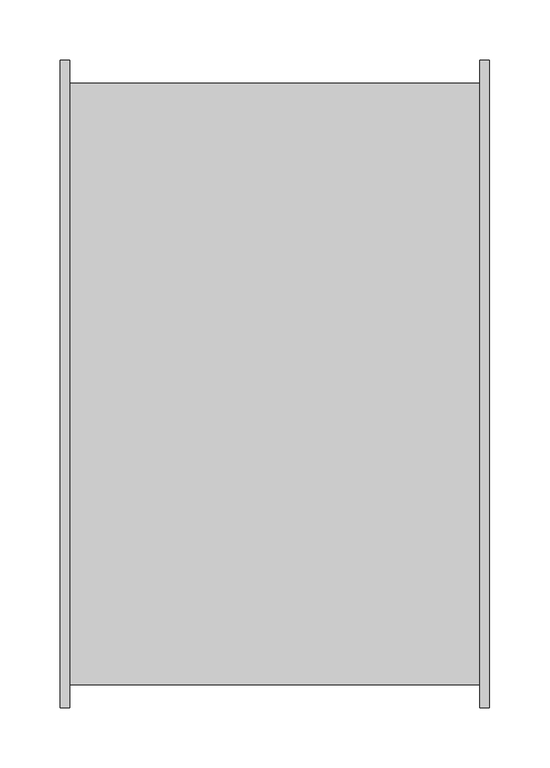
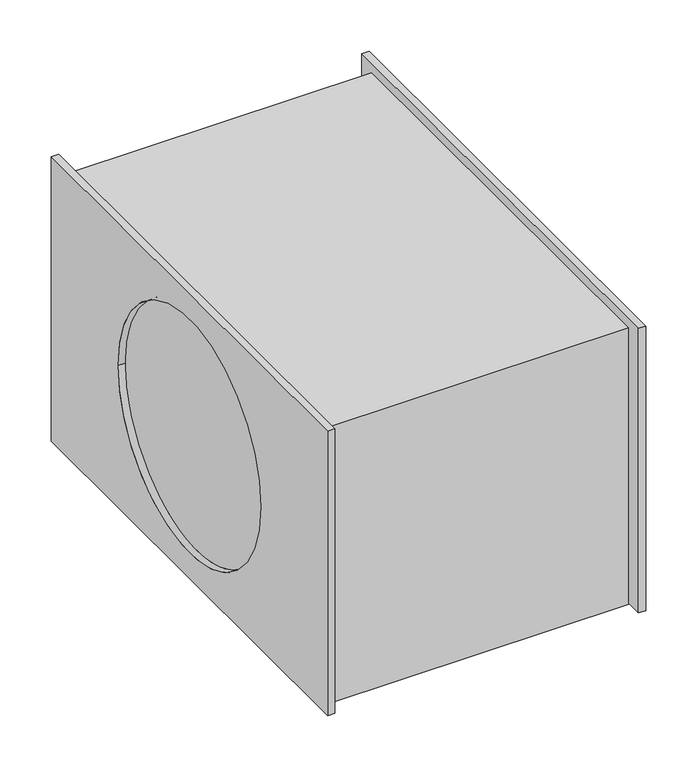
"""IFC4 building model written with IfcOpenShell, lengths in millimetres: unitary equipment geometry, VE-Wentylator-ParaForma-Harmann-JETTEC_REC-Nawiewny : 050/30/2400S."""

from ifc_helpers import new_model, si_unit, frame, origin, place, context, project, spatial, polyline, circle_curve, source, transform, mapped, element, save
from ifc_brep_helpers import plane_surface, revolved_surface, advanced_brep


def unitary_equipment_9b108a9d(model_context):
    return source(origin(), model_context, "Body", "AdvancedBrep", [
        advanced_brep(
        [(170.5, -269.0, -169.0), (170.5, -269.0, 169.0), (170.5, 269.0, 169.0), (170.5, 269.0, -169.0), (170.5, 250.0, -169.0), (170.5, 250.0, 158.0), (170.5, -250.0, 158.0), (170.5, -250.0, -169.0), (178.5, -269.0, -169.0), (178.5, 269.0, -169.0), (178.5, 269.0, 169.0), (178.5, -269.0, 169.0), (178.5, -138.75, 0.0), (178.5, 138.75, 0.0), (170.5, 138.75, 0.0), (170.5, -138.75, 0.0), (-170.5, 250.0, -170.0), (-170.5, -250.0, -170.0), (-170.5, -250.0, -169.0), (-170.5, 250.0, -169.0), (-170.5, -138.75, 0.0), (-170.5, 138.75, 0.0), (170.5, -250.0, -170.0), (170.5, 250.0, -170.0), (-170.5, -250.0, 158.0), (-170.5, 250.0, 158.0), (-178.5, -269.0, -169.0), (-178.5, -269.0, 169.0), (-178.5, 269.0, 169.0), (-178.5, 269.0, -169.0), (-178.5, 138.75, 0.0), (-178.5, -138.75, 0.0), (-170.5, 269.0, -169.0), (-170.5, 269.0, 169.0), (-170.5, -269.0, 169.0), (-170.5, -269.0, -169.0)],
        [
            (0, 1),
            (1, 2),
            (2, 3),
            (3, 4),
            (4, 5),
            (5, 6),
            (6, 7),
            (7, 0),
            (8, 9),
            (9, 10),
            (10, 11),
            (11, 8),
            (12, 13, circle_curve(frame((178.5, 0.0, 0.0), z_axis=(-1.0, 0.0, 0.0), x_axis=(0.0, 1.0, 0.0)), 138.75)),
            (13, 12, circle_curve(frame((178.5, 0.0, 0.0), z_axis=(-1.0, 0.0, 0.0), x_axis=(0.0, 1.0, 0.0)), 138.75)),
            (0, 8),
            (11, 1),
            (10, 2),
            (9, 3),
            (7, 4),
            (14, 13),
            (12, 15),
            (15, 14, circle_curve(frame((170.5, 0.0, 0.0), z_axis=(-1.0, 0.0, 0.0), x_axis=(0.0, 1.0, 0.0)), 138.75)),
            (14, 15, circle_curve(frame((170.5, 0.0, 0.0), z_axis=(-1.0, 0.0, 0.0), x_axis=(0.0, 1.0, 0.0)), 138.75)),
            (16, 17),
            (17, 18),
            (18, 19),
            (19, 16),
            (20, 21, circle_curve(frame((-170.5, 0.0, 0.0), z_axis=(-1.0, 0.0, 0.0), x_axis=(0.0, 1.0, 0.0)), 138.75)),
            (21, 20, circle_curve(frame((-170.5, 0.0, 0.0), z_axis=(-1.0, 0.0, 0.0), x_axis=(0.0, 1.0, 0.0)), 138.75)),
            (22, 23),
            (23, 4),
            (7, 22),
            (17, 22),
            (6, 24),
            (24, 18),
            (5, 25),
            (25, 24),
            (23, 16),
            (19, 25),
            (26, 27),
            (27, 28),
            (28, 29),
            (29, 26),
            (30, 31, circle_curve(frame((-178.5, 0.0, 0.0), z_axis=(1.0, 0.0, 0.0), x_axis=(0.0, 1.0, 0.0)), 138.75)),
            (31, 30, circle_curve(frame((-178.5, 0.0, 0.0), z_axis=(1.0, 0.0, 0.0), x_axis=(0.0, 1.0, 0.0)), 138.75)),
            (32, 33),
            (33, 34),
            (34, 35),
            (35, 18),
            (19, 32),
            (26, 35),
            (34, 27),
            (33, 28),
            (32, 29),
            (30, 21),
            (20, 31),
        ],
        [
            plane_surface(frame((170.5, 0.0, 0.0), z_axis=(-1.0, 0.0, 0.0), x_axis=(0.0, 0.0, 1.0))),
            plane_surface(frame((178.5, 0.0, 0.0), z_axis=(1.0, 0.0, 0.0), x_axis=(0.0, 0.0, 1.0))),
            plane_surface(frame((170.5, -269.0, -169.0), z_axis=(0.0, -1.0, 0.0), x_axis=(1.0, 0.0, 0.0))),
            plane_surface(frame((170.5, -269.0, 169.0), z_axis=(0.0, 0.0, 1.0), x_axis=(1.0, 0.0, 0.0))),
            plane_surface(frame((170.5, 269.0, 169.0), z_axis=(0.0, 1.0, 0.0), x_axis=(1.0, 0.0, 0.0))),
            plane_surface(frame((170.5, 269.0, -169.0), z_axis=(0.0, 0.0, -1.0), x_axis=(1.0, 0.0, 0.0))),
            revolved_surface(polyline([(170.5, 138.75, 0.0), (178.5, 138.75, 0.0)]), (170.5, 0.0, 0.0), (-1.0, 0.0, 0.0)),
            plane_surface(frame((-170.5, 0.0, 0.0), z_axis=(-1.0, 0.0, 0.0), x_axis=(0.0, 0.0, 1.0))),
            plane_surface(frame((170.5, 0.0, 0.0), z_axis=(1.0, 0.0, 0.0), x_axis=(0.0, 0.0, 1.0))),
            plane_surface(frame((-170.5, -250.0, -170.0), z_axis=(0.0, -1.0, 0.0), x_axis=(1.0, 0.0, 0.0))),
            plane_surface(frame((-170.5, -250.0, 158.0), z_axis=(0.0, 0.0, 1.0), x_axis=(1.0, 0.0, 0.0))),
            plane_surface(frame((-170.5, 250.0, 158.0), z_axis=(0.0, 1.0, 0.0), x_axis=(1.0, 0.0, 0.0))),
            plane_surface(frame((-170.5, 250.0, -170.0), z_axis=(0.0, 0.0, -1.0), x_axis=(1.0, 0.0, 0.0))),
            plane_surface(frame((-178.5, 0.0, 0.0), z_axis=(-1.0, 0.0, 0.0), x_axis=(0.0, 0.0, 1.0))),
            plane_surface(frame((-170.5, 0.0, 0.0), z_axis=(1.0, 0.0, 0.0), x_axis=(0.0, 0.0, 1.0))),
            plane_surface(frame((-178.5, -269.0, -169.0), z_axis=(0.0, -1.0, 0.0), x_axis=(1.0, 0.0, 0.0))),
            plane_surface(frame((-178.5, -269.0, 169.0), z_axis=(0.0, 0.0, 1.0), x_axis=(1.0, 0.0, 0.0))),
            plane_surface(frame((-178.5, 269.0, 169.0), z_axis=(0.0, 1.0, 0.0), x_axis=(1.0, 0.0, 0.0))),
            plane_surface(frame((-178.5, 269.0, -169.0), z_axis=(0.0, 0.0, -1.0), x_axis=(1.0, 0.0, 0.0))),
            revolved_surface(polyline([(-178.5, 138.75, 0.0), (-170.5, 138.75, 0.0)]), (-178.5, 0.0, 0.0), (-1.0, 0.0, 0.0)),
        ],
        [
            (0, [[1, 2, 3, 4, 5, 6, 7, 8]]),
            (1, [[9, 10, 11, 12], [13, 14]]),
            (2, [[-1, 15, -12, 16]]),
            (3, [[-2, -16, -11, 17]]),
            (4, [[-3, -17, -10, 18]]),
            (5, [[-9, -15, -8, 19, -4, -18]]),
            (6, [[20, -13, 21, 22]]),
            (6, [[-20, 23, -21, -14]]),
            (7, [[24, 25, 26, 27]]),
            (7, [[28, 29]]),
            (8, [[-22, -23]]),
            (8, [[30, 31, -19, 32]]),
            (9, [[33, -32, -7, 34, 35, -25]]),
            (10, [[-34, -6, 36, 37]]),
            (11, [[-36, -5, -31, 38, -27, 39]]),
            (12, [[-24, -38, -30, -33]]),
            (13, [[40, 41, 42, 43], [44, 45]]),
            (14, [[46, 47, 48, 49, -35, -37, -39, 50]]),
            (15, [[-40, 51, -48, 52]]),
            (16, [[-41, -52, -47, 53]]),
            (17, [[-42, -53, -46, 54]]),
            (18, [[-43, -54, -50, -26, -49, -51]]),
            (19, [[55, -28, 56, -44]]),
            (19, [[-55, -45, -56, -29]]),
        ],
    ),
    ])


if __name__ == "__main__":
    model = new_model("IFC4")
    model_context = context("Model", 3, world=origin())
    ifc_project = project(units=[si_unit("LENGTHUNIT", "METRE", prefix="MILLI")], contexts=[model_context])
    site = spatial("IfcSite", under=ifc_project)
    building = spatial("IfcBuilding", under=site)
    placement = place(None, origin())
    unitary_equipment_shape = unitary_equipment_9b108a9d(model_context)
    element("IfcUnitaryEquipment", 1, ObjectType="VE-Wentylator-ParaForma-Harmann-JETTEC_REC-Nawiewny : 050/30/2400S", at=placement, inside=building, context=model_context, shape_type="MappedRepresentation", body=[
        mapped(unitary_equipment_shape, transform((0.0, 0.0, 0.0), x_axis=(1.0, 0.0, 0.0), y_axis=(0.0, 1.0, 0.0), z_axis=(0.0, 0.0, 1.0))),
    ])
    save(model, "model.ifc")
